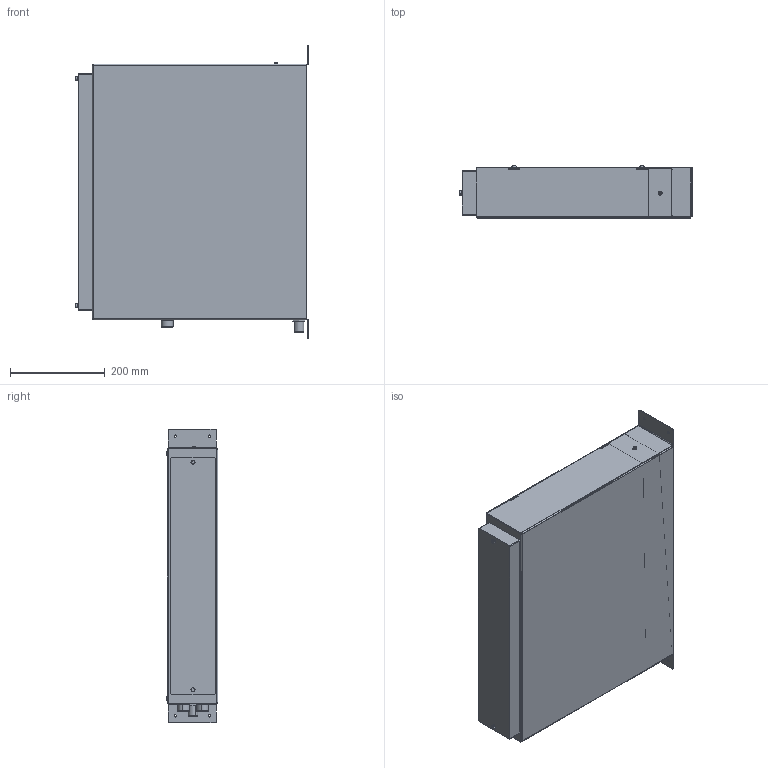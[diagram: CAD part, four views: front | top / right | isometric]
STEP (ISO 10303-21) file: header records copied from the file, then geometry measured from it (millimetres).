
FILE_DESCRIPTION (( 'STEP AP203' ), '1' );
FILE_NAME ('VC4G.STEP', '2022-06-21T06:43:42', ( '' ), ( '' ), 'SwSTEP 2.0', 'SolidWorks 2021', '' );
FILE_SCHEMA (( 'CONFIG_CONTROL_DESIGN' ));
Length unit declared in the file: millimetre
Products named in the file (15): C11.10.0013; VITETC5x45; EU1926_1; DADO12H4; C11.11.0002; C11.11.0008; C11.10.0005; EU1927_0; EU1929_0; EU1925_0; C24.1280.00.0; VC4G; AS790_00; OR1554262ACS; DADGAB5x83
Assembly tree (26 placements, depth 3):
  VC4G
    AS790_00
      EU1925_0
      EU1926_1
      C11.10.0013
      C11.11.0008
      C11.11.0002  x4
      EU1927_0
      C11.10.0005  x4
    DADGAB5x83  x2
    DADO12H4  x3
    C24.1280.00.0  x3
    OR1554262ACS
    VITETC5x45  x2
    EU1929_0
Bounding box: 491 x 109.25 x 620 mm (x, y, z)
Volume: 2578043 mm3; surface area: 1674822.1 mm2
Topology: 25 solids, 25 shells, 1082 faces, 2799 edges, 1796 vertices
Faces by surface type: plane 677, cylinder 331, cone 42, torus 28, bspline 4
Entity records: 20040 total; most frequent: CARTESIAN_POINT 3337, DIRECTION 3113, ORIENTED_EDGE 3022, EDGE_CURVE 1511, VECTOR 1097, LINE 1097, AXIS2_PLACEMENT_3D 1008, VERTEX_POINT 954
